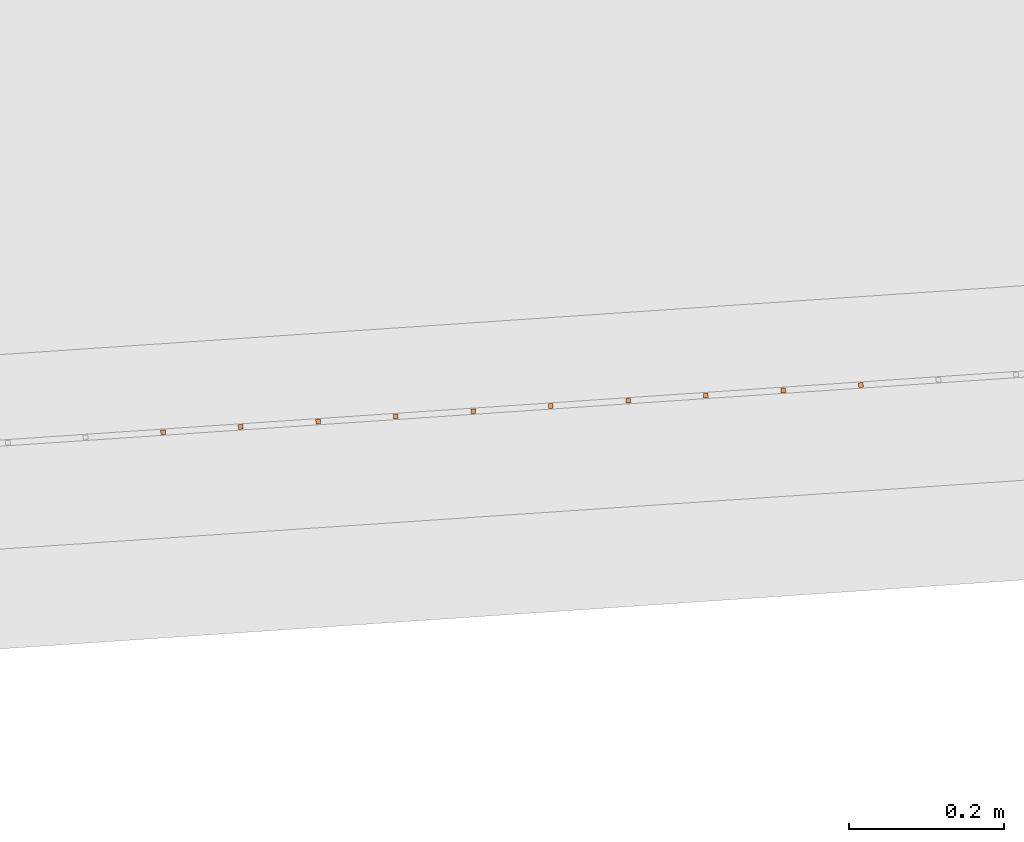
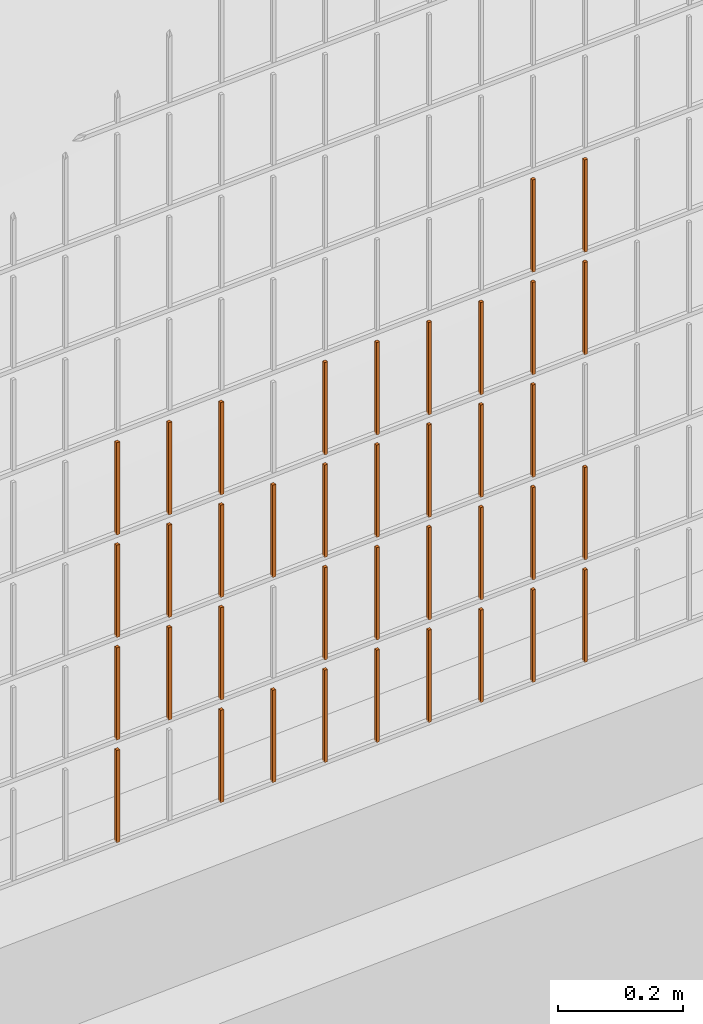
# One storey, part 148 of 1809: 38 proxies, 1 element without a shape of its own.
"""IFC2X3 building model written with IfcOpenShell, lengths in millimetres."""

from ifc_helpers import new_model, entity, si_unit, converted_unit, derived_unit, money_unit, direction, frame, origin_with_axes, place, context, subcontext, project, spatial, faceted_brep, source, transform, mapped, material, type_object, element, aggregate, save


model = new_model("IFC2X3")

# Units and contexts
model_context = context("Model", 3, precision=0.01, world=origin_with_axes(), true_north=direction((0.0, 1.0)))
body_context = subcontext(model_context, "Body", "Model", "MODEL_VIEW")
ifc_project = project(units=[si_unit("LENGTHUNIT", "METRE", prefix="MILLI"), si_unit("AREAUNIT", "SQUARE_METRE"), si_unit("VOLUMEUNIT", "CUBIC_METRE"), converted_unit("PLANEANGLEUNIT", "DEGREE", entity("IfcPlaneAngleMeasure", 0.0174532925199), si_unit("PLANEANGLEUNIT", "RADIAN"), dimensions=[0, 0, 0, 0, 0, 0, 0]), si_unit("SOLIDANGLEUNIT", "STERADIAN"), money_unit("EUR"), converted_unit("TIMEUNIT", "Year", entity("IfcTimeMeasure", 31556926.0), si_unit("TIMEUNIT", "SECOND"), dimensions=[0, 0, 1, 0, 0, 0, 0]), si_unit("MASSUNIT", "GRAM", prefix="KILO"), si_unit("THERMODYNAMICTEMPERATUREUNIT", "DEGREE_CELSIUS"), si_unit("LUMINOUSINTENSITYUNIT", "LUMEN"), si_unit("ENERGYUNIT", "JOULE", prefix="MEGA"), derived_unit("THERMALCONDUCTANCEUNIT", [(si_unit("POWERUNIT", "WATT"), 1), (si_unit("LENGTHUNIT", "METRE"), -1), (si_unit("THERMODYNAMICTEMPERATUREUNIT", "KELVIN"), -1)]), derived_unit("SPECIFICHEATCAPACITYUNIT", [(si_unit("ENERGYUNIT", "JOULE"), 1), (si_unit("MASSUNIT", "GRAM", prefix="KILO"), -1), (si_unit("THERMODYNAMICTEMPERATUREUNIT", "KELVIN"), -1)]), derived_unit("MASSDENSITYUNIT", [(si_unit("MASSUNIT", "GRAM", prefix="KILO"), 1), (si_unit("VOLUMEUNIT", "CUBIC_METRE"), -1)])], contexts=[model_context])

# Site, building, storey
site_placement = place(None, origin_with_axes())
site = spatial("IfcSite", under=ifc_project, at=site_placement, Name="Politse- ja Piirivalveameti ning Päästeameti ühishoone", CompositionType="ELEMENT")
building_placement = place(site_placement, origin_with_axes())
building = spatial("IfcBuilding", under=site, at=building_placement, Name="Politse- ja Piirivalveameti ning Päästeameti ühishoone", CompositionType="ELEMENT")
storey_placement = place(building_placement, origin_with_axes())
storey = spatial("IfcBuildingStorey", under=building, at=storey_placement, Name="Esimene korrus", CompositionType="ELEMENT", Elevation=0.0)

# Proxies
building_element_proxy_type_1 = type_object("IfcBuildingElementProxyType", Name="Railing Type", PredefinedType="NOTDEFINED")
proxy_1_placement = place(storey_placement, frame((89252.001212, -29183.4766571, 203.661247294), z_axis=(0.0, 0.0, 1.0), x_axis=(1.0, 0.0, 0.0)))
proxy_1 = element("IfcBuildingElementProxy", 1, at=proxy_1_placement, inside=storey, type_object=building_element_proxy_type_1, Name="PIIRDEAED")
ifc_material = material(Name="ET-03_Raud")
building_element_proxy_type_2 = type_object("IfcBuildingElementProxyType", Name="IfcBuildingElementProxy", PredefinedType="NOTDEFINED")
shared_shape_1 = source(origin_with_axes(), body_context, "Body", "Brep", [
    faceted_brep([(3.0, 3.0, -0.000752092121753), (-3.0, 3.0, -0.000752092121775), (-3.0, 3.0, 179.99926046), (3.0, 3.0, 179.99926046), (3.0, -3.0, 0.000752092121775), (-3.0, -3.0, 0.000752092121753), (-3.0, -3.0, 180.000764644), (3.0, -3.0, 180.000764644)], [[[0, 1, 2, 3]], [[0, 4, 5, 1]], [[1, 5, 6, 2]], [[3, 2, 6, 7]], [[4, 0, 3, 7]], [[5, 4, 7, 6]]]),
])
proxy_2_placement = place(proxy_1_placement, frame((-83636.1105287, -22947.0783965, 6.21925497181), z_axis=(0.0, 0.0, 1.0), x_axis=(1.0, 0.0, 0.0)))
proxy_2 = element("IfcBuildingElementProxy", 2, at=proxy_2_placement, type_object=building_element_proxy_type_2, material=ifc_material, Name="BALUSTER - 001", context=body_context, shape_type="MappedRepresentation", body=[
    mapped(shared_shape_1, transform((0.0, 0.0, 0.0), x_axis=(-0.0673926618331, 0.997726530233, 0.0), y_axis=(-0.997726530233, -0.0673926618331, 0.0), z_axis=(0.0, 0.0, 1.0))),
])
proxy_3_placement = place(proxy_1_placement, frame((-83636.1105287, -22947.0783965, 206.219254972), z_axis=(0.0, 0.0, 1.0), x_axis=(1.0, 0.0, 0.0)))
proxy_3 = element("IfcBuildingElementProxy", 3, at=proxy_3_placement, type_object=building_element_proxy_type_2, material=ifc_material, Name="BALUSTER - 001", context=body_context, shape_type="MappedRepresentation", body=[
    mapped(shared_shape_1, transform((0.0, 0.0, 0.0), x_axis=(-0.0673926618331, 0.997726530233, 0.0), y_axis=(-0.997726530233, -0.0673926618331, 0.0), z_axis=(0.0, 0.0, 1.0))),
])
shared_shape_2 = source(origin_with_axes(), body_context, "Body", "Brep", [
    faceted_brep([(3.0, 3.0, -0.000752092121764), (-3.0, 3.0, -0.000752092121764), (-3.0, 3.0, 179.99926046), (3.0, 3.0, 179.99926046), (3.0, -3.0, 0.000752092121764), (-3.0, -3.0, 0.000752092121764), (-3.0, -3.0, 180.000764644), (3.0, -3.0, 180.000764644)], [[[0, 1, 2, 3]], [[0, 4, 5, 1]], [[1, 5, 6, 2]], [[3, 2, 6, 7]], [[4, 0, 3, 7]], [[5, 4, 7, 6]]]),
])
proxy_4_placement = place(proxy_1_placement, frame((-83536.3378757, -22940.3391303, 6.24432470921), z_axis=(0.0, 0.0, 1.0), x_axis=(1.0, 0.0, 0.0)))
proxy_4 = element("IfcBuildingElementProxy", 4, at=proxy_4_placement, type_object=building_element_proxy_type_2, material=ifc_material, Name="BALUSTER - 001", context=body_context, shape_type="MappedRepresentation", body=[
    mapped(shared_shape_2, transform((0.0, 0.0, 0.0), x_axis=(-0.0673926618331, 0.997726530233, 0.0), y_axis=(-0.997726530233, -0.0673926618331, 0.0), z_axis=(0.0, 0.0, 1.0))),
])
proxy_5_placement = place(proxy_1_placement, frame((-84134.9737938, -22980.7747274, 6.09390628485), z_axis=(0.0, 0.0, 1.0), x_axis=(1.0, 0.0, 0.0)))
proxy_5 = element("IfcBuildingElementProxy", 5, at=proxy_5_placement, type_object=building_element_proxy_type_2, material=ifc_material, Name="BALUSTER - 001", context=body_context, shape_type="MappedRepresentation", body=[
    mapped(shared_shape_2, transform((0.0, 0.0, 0.0), x_axis=(-0.0673926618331, 0.997726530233, 0.0), y_axis=(-0.997726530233, -0.0673926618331, 0.0), z_axis=(0.0, 0.0, 1.0))),
])
shared_shape_3 = source(origin_with_axes(), body_context, "Body", "Brep", [
    faceted_brep([(3.0, 3.0, -0.000752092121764), (-3.0, 3.0, -0.000752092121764), (-3.0, 3.0, 179.99926046), (3.0, 3.0, 179.99926046), (3.0, -3.0, 0.000752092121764), (-3.0, -3.0, 0.000752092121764), (-3.0, -3.0, 180.000764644), (3.0, -3.0, 180.000764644)], [[[0, 1, 2, 3]], [[0, 4, 5, 1]], [[1, 5, 6, 2]], [[3, 2, 6, 7]], [[4, 0, 3, 7]], [[5, 4, 7, 6]]]),
])
proxy_6_placement = place(proxy_1_placement, frame((-83237.0199166, -22920.1213318, 6.31953392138), z_axis=(0.0, 0.0, 1.0), x_axis=(1.0, 0.0, 0.0)))
proxy_6 = element("IfcBuildingElementProxy", 6, at=proxy_6_placement, type_object=building_element_proxy_type_2, material=ifc_material, Name="BALUSTER - 001", context=body_context, shape_type="MappedRepresentation", body=[
    mapped(shared_shape_3, transform((0.0, 0.0, 0.0), x_axis=(-0.0673926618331, 0.997726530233, 0.0), y_axis=(-0.997726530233, -0.0673926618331, 0.0), z_axis=(0.0, 0.0, 1.0))),
])
shared_shape_4 = source(origin_with_axes(), body_context, "Body", "Brep", [
    faceted_brep([(3.0, 3.0, -0.000752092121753), (-3.0, 3.0, -0.000752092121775), (-3.0, 3.0, 179.99926046), (3.0, 3.0, 179.99926046), (3.0, -3.0, 0.000752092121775), (-3.0, -3.0, 0.000752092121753), (-3.0, -3.0, 180.000764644), (3.0, -3.0, 180.000764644)], [[[0, 1, 2, 3]], [[0, 4, 5, 1]], [[1, 5, 6, 2]], [[3, 2, 6, 7]], [[4, 0, 3, 7]], [[5, 4, 7, 6]]]),
])
proxy_7_placement = place(proxy_1_placement, frame((-83436.5652227, -22933.5998642, 6.2693944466), z_axis=(0.0, 0.0, 1.0), x_axis=(1.0, 0.0, 0.0)))
proxy_7 = element("IfcBuildingElementProxy", 7, at=proxy_7_placement, type_object=building_element_proxy_type_2, material=ifc_material, Name="BALUSTER - 001", context=body_context, shape_type="MappedRepresentation", body=[
    mapped(shared_shape_4, transform((0.0, 0.0, 0.0), x_axis=(-0.0673926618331, 0.997726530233, 0.0), y_axis=(-0.997726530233, -0.0673926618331, 0.0), z_axis=(0.0, 0.0, 1.0))),
])
shared_shape_5 = source(origin_with_axes(), body_context, "Body", "Brep", [
    faceted_brep([(3.0, 3.0, -0.000752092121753), (-3.0, 3.0, -0.000752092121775), (-3.0, 3.0, 179.99926046), (3.0, 3.0, 179.99926046), (3.0, -3.0, 0.000752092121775), (-3.0, -3.0, 0.000752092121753), (-3.0, -3.0, 180.000764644), (3.0, -3.0, 180.000764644)], [[[0, 1, 2, 3]], [[0, 4, 5, 1]], [[1, 5, 6, 2]], [[3, 2, 6, 7]], [[4, 0, 3, 7]], [[5, 4, 7, 6]]]),
])
proxy_8_placement = place(proxy_1_placement, frame((-83636.1105287, -22947.0783965, 406.219254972), z_axis=(0.0, 0.0, 1.0), x_axis=(1.0, 0.0, 0.0)))
proxy_8 = element("IfcBuildingElementProxy", 8, at=proxy_8_placement, type_object=building_element_proxy_type_2, material=ifc_material, Name="BALUSTER - 001", context=body_context, shape_type="MappedRepresentation", body=[
    mapped(shared_shape_5, transform((0.0, 0.0, 0.0), x_axis=(-0.0673926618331, 0.997726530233, 0.0), y_axis=(-0.997726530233, -0.0673926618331, 0.0), z_axis=(0.0, 0.0, 1.0))),
])
shared_shape_6 = source(origin_with_axes(), body_context, "Body", "Brep", [
    faceted_brep([(3.0, 3.0, -0.000752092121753), (-3.0, 3.0, -0.000752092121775), (-3.0, 3.0, 179.99926046), (3.0, 3.0, 179.99926046), (3.0, -3.0, 0.000752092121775), (-3.0, -3.0, 0.000752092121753), (-3.0, -3.0, 180.000764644), (3.0, -3.0, 180.000764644)], [[[0, 1, 2, 3]], [[0, 4, 5, 1]], [[1, 5, 6, 2]], [[3, 2, 6, 7]], [[4, 0, 3, 7]], [[5, 4, 7, 6]]]),
])
proxy_9_placement = place(proxy_1_placement, frame((-83735.8831817, -22953.8176627, 206.194185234), z_axis=(0.0, 0.0, 1.0), x_axis=(1.0, 0.0, 0.0)))
proxy_9 = element("IfcBuildingElementProxy", 9, at=proxy_9_placement, type_object=building_element_proxy_type_2, material=ifc_material, Name="BALUSTER - 001", context=body_context, shape_type="MappedRepresentation", body=[
    mapped(shared_shape_6, transform((0.0, 0.0, 0.0), x_axis=(-0.0673926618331, 0.997726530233, 0.0), y_axis=(-0.997726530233, -0.0673926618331, 0.0), z_axis=(0.0, 0.0, 1.0))),
])
shared_shape_7 = source(origin_with_axes(), body_context, "Body", "Brep", [
    faceted_brep([(3.0, 3.0, -0.000752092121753), (-3.0, 3.0, -0.000752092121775), (-3.0, 3.0, 179.99926046), (3.0, 3.0, 179.99926046), (3.0, -3.0, 0.000752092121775), (-3.0, -3.0, 0.000752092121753), (-3.0, -3.0, 180.000764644), (3.0, -3.0, 180.000764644)], [[[0, 1, 2, 3]], [[0, 4, 5, 1]], [[1, 5, 6, 2]], [[3, 2, 6, 7]], [[4, 0, 3, 7]], [[5, 4, 7, 6]]]),
])
proxy_10_placement = place(proxy_1_placement, frame((-83735.8831817, -22953.8176627, 406.194185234), z_axis=(0.0, 0.0, 1.0), x_axis=(1.0, 0.0, 0.0)))
proxy_10 = element("IfcBuildingElementProxy", 10, at=proxy_10_placement, type_object=building_element_proxy_type_2, material=ifc_material, Name="BALUSTER - 001", context=body_context, shape_type="MappedRepresentation", body=[
    mapped(shared_shape_7, transform((0.0, 0.0, 0.0), x_axis=(-0.0673926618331, 0.997726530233, 0.0), y_axis=(-0.997726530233, -0.0673926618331, 0.0), z_axis=(0.0, 0.0, 1.0))),
])
proxy_11_placement = place(proxy_1_placement, frame((-83735.8831817, -22953.8176627, 606.194185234), z_axis=(0.0, 0.0, 1.0), x_axis=(1.0, 0.0, 0.0)))
proxy_11 = element("IfcBuildingElementProxy", 11, at=proxy_11_placement, type_object=building_element_proxy_type_2, material=ifc_material, Name="BALUSTER - 001", context=body_context, shape_type="MappedRepresentation", body=[
    mapped(shared_shape_7, transform((0.0, 0.0, 0.0), x_axis=(-0.0673926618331, 0.997726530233, 0.0), y_axis=(-0.997726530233, -0.0673926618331, 0.0), z_axis=(0.0, 0.0, 1.0))),
])
shared_shape_8 = source(origin_with_axes(), body_context, "Body", "Brep", [
    faceted_brep([(3.0, 3.0, -0.000752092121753), (-3.0, 3.0, -0.000752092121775), (-3.0, 3.0, 179.99926046), (3.0, 3.0, 179.99926046), (3.0, -3.0, 0.000752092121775), (-3.0, -3.0, 0.000752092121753), (-3.0, -3.0, 180.000764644), (3.0, -3.0, 180.000764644)], [[[0, 1, 2, 3]], [[0, 4, 5, 1]], [[1, 5, 6, 2]], [[3, 2, 6, 7]], [[4, 0, 3, 7]], [[5, 4, 7, 6]]]),
])
proxy_12_placement = place(proxy_1_placement, frame((-83735.8831817, -22953.8176627, 6.19418523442), z_axis=(0.0, 0.0, 1.0), x_axis=(1.0, 0.0, 0.0)))
proxy_12 = element("IfcBuildingElementProxy", 12, at=proxy_12_placement, type_object=building_element_proxy_type_2, material=ifc_material, Name="BALUSTER - 001", context=body_context, shape_type="MappedRepresentation", body=[
    mapped(shared_shape_8, transform((0.0, 0.0, 0.0), x_axis=(-0.0673926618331, 0.997726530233, 0.0), y_axis=(-0.997726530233, -0.0673926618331, 0.0), z_axis=(0.0, 0.0, 1.0))),
])
proxy_13_placement = place(proxy_1_placement, frame((-83835.6558348, -22960.5569289, 6.16911549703), z_axis=(0.0, 0.0, 1.0), x_axis=(1.0, 0.0, 0.0)))
proxy_13 = element("IfcBuildingElementProxy", 13, at=proxy_13_placement, type_object=building_element_proxy_type_2, material=ifc_material, Name="BALUSTER - 001", context=body_context, shape_type="MappedRepresentation", body=[
    mapped(shared_shape_8, transform((0.0, 0.0, 0.0), x_axis=(-0.0673926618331, 0.997726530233, 0.0), y_axis=(-0.997726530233, -0.0673926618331, 0.0), z_axis=(0.0, 0.0, 1.0))),
])
shared_shape_9 = source(origin_with_axes(), body_context, "Body", "Brep", [
    faceted_brep([(3.0, 3.0, -0.000752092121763), (-3.0, 3.0, -0.000752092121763), (-3.0, 3.0, 179.99926046), (3.0, 3.0, 179.99926046), (3.0, -3.0, 0.000752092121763), (-3.0, -3.0, 0.000752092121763), (-3.0, -3.0, 180.000764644), (3.0, -3.0, 180.000764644)], [[[0, 1, 2, 3]], [[0, 4, 5, 1]], [[1, 5, 6, 2]], [[3, 2, 6, 7]], [[4, 0, 3, 7]], [[5, 4, 7, 6]]]),
])
proxy_14_placement = place(proxy_1_placement, frame((-83536.3378757, -22940.3391303, 406.244324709), z_axis=(0.0, 0.0, 1.0), x_axis=(1.0, 0.0, 0.0)))
proxy_14 = element("IfcBuildingElementProxy", 14, at=proxy_14_placement, type_object=building_element_proxy_type_2, material=ifc_material, Name="BALUSTER - 001", context=body_context, shape_type="MappedRepresentation", body=[
    mapped(shared_shape_9, transform((0.0, 0.0, 0.0), x_axis=(-0.0673926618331, 0.997726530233, 0.0), y_axis=(-0.997726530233, -0.0673926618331, 0.0), z_axis=(0.0, 0.0, 1.0))),
])
proxy_15_placement = place(proxy_1_placement, frame((-84134.9737938, -22980.7747274, 406.093906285), z_axis=(0.0, 0.0, 1.0), x_axis=(1.0, 0.0, 0.0)))
proxy_15 = element("IfcBuildingElementProxy", 15, at=proxy_15_placement, type_object=building_element_proxy_type_2, material=ifc_material, Name="BALUSTER - 001", context=body_context, shape_type="MappedRepresentation", body=[
    mapped(shared_shape_9, transform((0.0, 0.0, 0.0), x_axis=(-0.0673926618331, 0.997726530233, 0.0), y_axis=(-0.997726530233, -0.0673926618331, 0.0), z_axis=(0.0, 0.0, 1.0))),
])
proxy_16_placement = place(proxy_1_placement, frame((-83536.3378757, -22940.3391303, 606.244324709), z_axis=(0.0, 0.0, 1.0), x_axis=(1.0, 0.0, 0.0)))
proxy_16 = element("IfcBuildingElementProxy", 16, at=proxy_16_placement, type_object=building_element_proxy_type_2, material=ifc_material, Name="BALUSTER - 001", context=body_context, shape_type="MappedRepresentation", body=[
    mapped(shared_shape_9, transform((0.0, 0.0, 0.0), x_axis=(-0.0673926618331, 0.997726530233, 0.0), y_axis=(-0.997726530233, -0.0673926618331, 0.0), z_axis=(0.0, 0.0, 1.0))),
])
proxy_17_placement = place(proxy_1_placement, frame((-84134.9737938, -22980.7747274, 606.093906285), z_axis=(0.0, 0.0, 1.0), x_axis=(1.0, 0.0, 0.0)))
proxy_17 = element("IfcBuildingElementProxy", 17, at=proxy_17_placement, type_object=building_element_proxy_type_2, material=ifc_material, Name="BALUSTER - 001", context=body_context, shape_type="MappedRepresentation", body=[
    mapped(shared_shape_9, transform((0.0, 0.0, 0.0), x_axis=(-0.0673926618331, 0.997726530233, 0.0), y_axis=(-0.997726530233, -0.0673926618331, 0.0), z_axis=(0.0, 0.0, 1.0))),
])
shared_shape_10 = source(origin_with_axes(), body_context, "Body", "Brep", [
    faceted_brep([(3.0, 3.0, -0.000752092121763), (-3.0, 3.0, -0.000752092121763), (-3.0, 3.0, 179.99926046), (3.0, 3.0, 179.99926046), (3.0, -3.0, 0.000752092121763), (-3.0, -3.0, 0.000752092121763), (-3.0, -3.0, 180.000764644), (3.0, -3.0, 180.000764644)], [[[0, 1, 2, 3]], [[0, 4, 5, 1]], [[1, 5, 6, 2]], [[3, 2, 6, 7]], [[4, 0, 3, 7]], [[5, 4, 7, 6]]]),
])
proxy_18_placement = place(proxy_1_placement, frame((-83237.0199166, -22920.1213318, 606.319533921), z_axis=(0.0, 0.0, 1.0), x_axis=(1.0, 0.0, 0.0)))
proxy_18 = element("IfcBuildingElementProxy", 18, at=proxy_18_placement, type_object=building_element_proxy_type_2, material=ifc_material, Name="BALUSTER - 001", context=body_context, shape_type="MappedRepresentation", body=[
    mapped(shared_shape_10, transform((0.0, 0.0, 0.0), x_axis=(-0.0673926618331, 0.997726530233, 0.0), y_axis=(-0.997726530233, -0.0673926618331, 0.0), z_axis=(0.0, 0.0, 1.0))),
])
shared_shape_11 = source(origin_with_axes(), body_context, "Body", "Brep", [
    faceted_brep([(3.0, 3.0, -0.000752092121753), (-3.0, 3.0, -0.000752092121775), (-3.0, 3.0, 179.99926046), (3.0, 3.0, 179.99926046), (3.0, -3.0, 0.000752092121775), (-3.0, -3.0, 0.000752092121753), (-3.0, -3.0, 180.000764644), (3.0, -3.0, 180.000764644)], [[[0, 1, 2, 3]], [[0, 4, 5, 1]], [[1, 5, 6, 2]], [[3, 2, 6, 7]], [[4, 0, 3, 7]], [[5, 4, 7, 6]]]),
])
proxy_19_placement = place(proxy_1_placement, frame((-83636.1105287, -22947.0783965, 606.219254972), z_axis=(0.0, 0.0, 1.0), x_axis=(1.0, 0.0, 0.0)))
proxy_19 = element("IfcBuildingElementProxy", 19, at=proxy_19_placement, type_object=building_element_proxy_type_2, material=ifc_material, Name="BALUSTER - 001", context=body_context, shape_type="MappedRepresentation", body=[
    mapped(shared_shape_11, transform((0.0, 0.0, 0.0), x_axis=(-0.0673926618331, 0.997726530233, 0.0), y_axis=(-0.997726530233, -0.0673926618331, 0.0), z_axis=(0.0, 0.0, 1.0))),
])
shared_shape_12 = source(origin_with_axes(), body_context, "Body", "Brep", [
    faceted_brep([(3.0, 3.0, -0.000752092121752), (-3.0, 3.0, -0.000752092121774), (-3.0, 3.0, 179.99926046), (3.0, 3.0, 179.99926046), (3.0, -3.0, 0.000752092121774), (-3.0, -3.0, 0.000752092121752), (-3.0, -3.0, 180.000764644), (3.0, -3.0, 180.000764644)], [[[0, 1, 2, 3]], [[0, 4, 5, 1]], [[1, 5, 6, 2]], [[3, 2, 6, 7]], [[4, 0, 3, 7]], [[5, 4, 7, 6]]]),
])
proxy_20_placement = place(proxy_1_placement, frame((-83336.7925696, -22926.860598, 806.294464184), z_axis=(0.0, 0.0, 1.0), x_axis=(1.0, 0.0, 0.0)))
proxy_20 = element("IfcBuildingElementProxy", 20, at=proxy_20_placement, type_object=building_element_proxy_type_2, material=ifc_material, Name="BALUSTER - 001", context=body_context, shape_type="MappedRepresentation", body=[
    mapped(shared_shape_12, transform((0.0, 0.0, 0.0), x_axis=(-0.0673926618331, 0.997726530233, 0.0), y_axis=(-0.997726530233, -0.0673926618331, 0.0), z_axis=(0.0, 0.0, 1.0))),
])
shared_shape_13 = source(origin_with_axes(), body_context, "Body", "Brep", [
    faceted_brep([(3.0, 3.0, -0.000752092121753), (-3.0, 3.0, -0.000752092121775), (-3.0, 3.0, 179.99926046), (3.0, 3.0, 179.99926046), (3.0, -3.0, 0.000752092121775), (-3.0, -3.0, 0.000752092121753), (-3.0, -3.0, 180.000764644), (3.0, -3.0, 180.000764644)], [[[0, 1, 2, 3]], [[0, 4, 5, 1]], [[1, 5, 6, 2]], [[3, 2, 6, 7]], [[4, 0, 3, 7]], [[5, 4, 7, 6]]]),
])
proxy_21_placement = place(proxy_1_placement, frame((-83336.7925696, -22926.860598, 6.29446418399), z_axis=(0.0, 0.0, 1.0), x_axis=(1.0, 0.0, 0.0)))
proxy_21 = element("IfcBuildingElementProxy", 21, at=proxy_21_placement, type_object=building_element_proxy_type_2, material=ifc_material, Name="BALUSTER - 001", context=body_context, shape_type="MappedRepresentation", body=[
    mapped(shared_shape_13, transform((0.0, 0.0, 0.0), x_axis=(-0.0673926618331, 0.997726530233, 0.0), y_axis=(-0.997726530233, -0.0673926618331, 0.0), z_axis=(0.0, 0.0, 1.0))),
])
shared_shape_14 = source(origin_with_axes(), body_context, "Body", "Brep", [
    faceted_brep([(3.0, 3.0, -0.000752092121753), (-3.0, 3.0, -0.000752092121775), (-3.0, 3.0, 179.99926046), (3.0, 3.0, 179.99926046), (3.0, -3.0, 0.000752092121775), (-3.0, -3.0, 0.000752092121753), (-3.0, -3.0, 180.000764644), (3.0, -3.0, 180.000764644)], [[[0, 1, 2, 3]], [[0, 4, 5, 1]], [[1, 5, 6, 2]], [[3, 2, 6, 7]], [[4, 0, 3, 7]], [[5, 4, 7, 6]]]),
])
proxy_22_placement = place(proxy_1_placement, frame((-83935.4284878, -22967.2961951, 6.14404575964), z_axis=(0.0, 0.0, 1.0), x_axis=(1.0, 0.0, 0.0)))
proxy_22 = element("IfcBuildingElementProxy", 22, at=proxy_22_placement, type_object=building_element_proxy_type_2, material=ifc_material, Name="BALUSTER - 001", context=body_context, shape_type="MappedRepresentation", body=[
    mapped(shared_shape_14, transform((0.0, 0.0, 0.0), x_axis=(-0.0673926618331, 0.997726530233, 0.0), y_axis=(-0.997726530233, -0.0673926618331, 0.0), z_axis=(0.0, 0.0, 1.0))),
])
shared_shape_15 = source(origin_with_axes(), body_context, "Body", "Brep", [
    faceted_brep([(3.0, 3.0, -0.000752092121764), (-3.0, 3.0, -0.000752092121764), (-3.0, 3.0, 179.99926046), (3.0, 3.0, 179.99926046), (3.0, -3.0, 0.000752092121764), (-3.0, -3.0, 0.000752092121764), (-3.0, -3.0, 180.000764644), (3.0, -3.0, 180.000764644)], [[[0, 1, 2, 3]], [[0, 4, 5, 1]], [[1, 5, 6, 2]], [[3, 2, 6, 7]], [[4, 0, 3, 7]], [[5, 4, 7, 6]]]),
])
proxy_23_placement = place(proxy_1_placement, frame((-83237.0199166, -22920.1213318, 206.319533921), z_axis=(0.0, 0.0, 1.0), x_axis=(1.0, 0.0, 0.0)))
proxy_23 = element("IfcBuildingElementProxy", 23, at=proxy_23_placement, type_object=building_element_proxy_type_2, material=ifc_material, Name="BALUSTER - 001", context=body_context, shape_type="MappedRepresentation", body=[
    mapped(shared_shape_15, transform((0.0, 0.0, 0.0), x_axis=(-0.0673926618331, 0.997726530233, 0.0), y_axis=(-0.997726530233, -0.0673926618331, 0.0), z_axis=(0.0, 0.0, 1.0))),
])
shared_shape_16 = source(origin_with_axes(), body_context, "Body", "Brep", [
    faceted_brep([(3.0, 3.0, -0.000752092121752), (-3.0, 3.0, -0.000752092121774), (-3.0, 3.0, 179.99926046), (3.0, 3.0, 179.99926046), (3.0, -3.0, 0.000752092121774), (-3.0, -3.0, 0.000752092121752), (-3.0, -3.0, 180.000764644), (3.0, -3.0, 180.000764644)], [[[0, 1, 2, 3]], [[0, 4, 5, 1]], [[1, 5, 6, 2]], [[3, 2, 6, 7]], [[4, 0, 3, 7]], [[5, 4, 7, 6]]]),
])
proxy_24_placement = place(proxy_1_placement, frame((-83935.4284878, -22967.2961951, 406.14404576), z_axis=(0.0, 0.0, 1.0), x_axis=(1.0, 0.0, 0.0)))
proxy_24 = element("IfcBuildingElementProxy", 24, at=proxy_24_placement, type_object=building_element_proxy_type_2, material=ifc_material, Name="BALUSTER - 001", context=body_context, shape_type="MappedRepresentation", body=[
    mapped(shared_shape_16, transform((0.0, 0.0, 0.0), x_axis=(-0.0673926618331, 0.997726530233, 0.0), y_axis=(-0.997726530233, -0.0673926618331, 0.0), z_axis=(0.0, 0.0, 1.0))),
])
proxy_25_placement = place(proxy_1_placement, frame((-83336.7925696, -22926.860598, 606.294464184), z_axis=(0.0, 0.0, 1.0), x_axis=(1.0, 0.0, 0.0)))
proxy_25 = element("IfcBuildingElementProxy", 25, at=proxy_25_placement, type_object=building_element_proxy_type_2, material=ifc_material, Name="BALUSTER - 001", context=body_context, shape_type="MappedRepresentation", body=[
    mapped(shared_shape_16, transform((0.0, 0.0, 0.0), x_axis=(-0.0673926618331, 0.997726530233, 0.0), y_axis=(-0.997726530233, -0.0673926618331, 0.0), z_axis=(0.0, 0.0, 1.0))),
])
proxy_26_placement = place(proxy_1_placement, frame((-84035.2011408, -22974.0354613, 606.118976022), z_axis=(0.0, 0.0, 1.0), x_axis=(1.0, 0.0, 0.0)))
proxy_26 = element("IfcBuildingElementProxy", 26, at=proxy_26_placement, type_object=building_element_proxy_type_2, material=ifc_material, Name="BALUSTER - 001", context=body_context, shape_type="MappedRepresentation", body=[
    mapped(shared_shape_16, transform((0.0, 0.0, 0.0), x_axis=(-0.0673926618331, 0.997726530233, 0.0), y_axis=(-0.997726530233, -0.0673926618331, 0.0), z_axis=(0.0, 0.0, 1.0))),
])
shared_shape_17 = source(origin_with_axes(), body_context, "Body", "Brep", [
    faceted_brep([(3.0, 3.0, -0.000752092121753), (-3.0, 3.0, -0.000752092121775), (-3.0, 3.0, 179.99926046), (3.0, 3.0, 179.99926046), (3.0, -3.0, 0.000752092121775), (-3.0, -3.0, 0.000752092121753), (-3.0, -3.0, 180.000764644), (3.0, -3.0, 180.000764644)], [[[0, 1, 2, 3]], [[0, 4, 5, 1]], [[1, 5, 6, 2]], [[3, 2, 6, 7]], [[4, 0, 3, 7]], [[5, 4, 7, 6]]]),
])
proxy_27_placement = place(proxy_1_placement, frame((-83436.5652227, -22933.5998642, 206.269394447), z_axis=(0.0, 0.0, 1.0), x_axis=(1.0, 0.0, 0.0)))
proxy_27 = element("IfcBuildingElementProxy", 27, at=proxy_27_placement, type_object=building_element_proxy_type_2, material=ifc_material, Name="BALUSTER - 001", context=body_context, shape_type="MappedRepresentation", body=[
    mapped(shared_shape_17, transform((0.0, 0.0, 0.0), x_axis=(-0.0673926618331, 0.997726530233, 0.0), y_axis=(-0.997726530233, -0.0673926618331, 0.0), z_axis=(0.0, 0.0, 1.0))),
])
shared_shape_18 = source(origin_with_axes(), body_context, "Body", "Brep", [
    faceted_brep([(3.0, 3.0, -0.000752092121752), (-3.0, 3.0, -0.000752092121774), (-3.0, 3.0, 179.99926046), (3.0, 3.0, 179.99926046), (3.0, -3.0, 0.000752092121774), (-3.0, -3.0, 0.000752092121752), (-3.0, -3.0, 180.000764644), (3.0, -3.0, 180.000764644)], [[[0, 1, 2, 3]], [[0, 4, 5, 1]], [[1, 5, 6, 2]], [[3, 2, 6, 7]], [[4, 0, 3, 7]], [[5, 4, 7, 6]]]),
])
proxy_28_placement = place(proxy_1_placement, frame((-83336.7925696, -22926.860598, 206.294464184), z_axis=(0.0, 0.0, 1.0), x_axis=(1.0, 0.0, 0.0)))
proxy_28 = element("IfcBuildingElementProxy", 28, at=proxy_28_placement, type_object=building_element_proxy_type_2, material=ifc_material, Name="BALUSTER - 001", context=body_context, shape_type="MappedRepresentation", body=[
    mapped(shared_shape_18, transform((0.0, 0.0, 0.0), x_axis=(-0.0673926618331, 0.997726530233, 0.0), y_axis=(-0.997726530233, -0.0673926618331, 0.0), z_axis=(0.0, 0.0, 1.0))),
])
proxy_29_placement = place(proxy_1_placement, frame((-83935.4284878, -22967.2961951, 206.14404576), z_axis=(0.0, 0.0, 1.0), x_axis=(1.0, 0.0, 0.0)))
proxy_29 = element("IfcBuildingElementProxy", 29, at=proxy_29_placement, type_object=building_element_proxy_type_2, material=ifc_material, Name="BALUSTER - 001", context=body_context, shape_type="MappedRepresentation", body=[
    mapped(shared_shape_18, transform((0.0, 0.0, 0.0), x_axis=(-0.0673926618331, 0.997726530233, 0.0), y_axis=(-0.997726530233, -0.0673926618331, 0.0), z_axis=(0.0, 0.0, 1.0))),
])
proxy_30_placement = place(proxy_1_placement, frame((-84035.2011408, -22974.0354613, 206.118976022), z_axis=(0.0, 0.0, 1.0), x_axis=(1.0, 0.0, 0.0)))
proxy_30 = element("IfcBuildingElementProxy", 30, at=proxy_30_placement, type_object=building_element_proxy_type_2, material=ifc_material, Name="BALUSTER - 001", context=body_context, shape_type="MappedRepresentation", body=[
    mapped(shared_shape_18, transform((0.0, 0.0, 0.0), x_axis=(-0.0673926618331, 0.997726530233, 0.0), y_axis=(-0.997726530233, -0.0673926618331, 0.0), z_axis=(0.0, 0.0, 1.0))),
])
proxy_31_placement = place(proxy_1_placement, frame((-83336.7925696, -22926.860598, 406.294464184), z_axis=(0.0, 0.0, 1.0), x_axis=(1.0, 0.0, 0.0)))
proxy_31 = element("IfcBuildingElementProxy", 31, at=proxy_31_placement, type_object=building_element_proxy_type_2, material=ifc_material, Name="BALUSTER - 001", context=body_context, shape_type="MappedRepresentation", body=[
    mapped(shared_shape_18, transform((0.0, 0.0, 0.0), x_axis=(-0.0673926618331, 0.997726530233, 0.0), y_axis=(-0.997726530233, -0.0673926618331, 0.0), z_axis=(0.0, 0.0, 1.0))),
])
proxy_32_placement = place(proxy_1_placement, frame((-83436.5652227, -22933.5998642, 406.269394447), z_axis=(0.0, 0.0, 1.0), x_axis=(1.0, 0.0, 0.0)))
proxy_32 = element("IfcBuildingElementProxy", 32, at=proxy_32_placement, type_object=building_element_proxy_type_2, material=ifc_material, Name="BALUSTER - 001", context=body_context, shape_type="MappedRepresentation", body=[
    mapped(shared_shape_18, transform((0.0, 0.0, 0.0), x_axis=(-0.0673926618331, 0.997726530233, 0.0), y_axis=(-0.997726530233, -0.0673926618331, 0.0), z_axis=(0.0, 0.0, 1.0))),
])
proxy_33_placement = place(proxy_1_placement, frame((-84035.2011408, -22974.0354613, 406.118976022), z_axis=(0.0, 0.0, 1.0), x_axis=(1.0, 0.0, 0.0)))
proxy_33 = element("IfcBuildingElementProxy", 33, at=proxy_33_placement, type_object=building_element_proxy_type_2, material=ifc_material, Name="BALUSTER - 001", context=body_context, shape_type="MappedRepresentation", body=[
    mapped(shared_shape_18, transform((0.0, 0.0, 0.0), x_axis=(-0.0673926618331, 0.997726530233, 0.0), y_axis=(-0.997726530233, -0.0673926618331, 0.0), z_axis=(0.0, 0.0, 1.0))),
])
proxy_34_placement = place(proxy_1_placement, frame((-83436.5652227, -22933.5998642, 606.269394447), z_axis=(0.0, 0.0, 1.0), x_axis=(1.0, 0.0, 0.0)))
proxy_34 = element("IfcBuildingElementProxy", 34, at=proxy_34_placement, type_object=building_element_proxy_type_2, material=ifc_material, Name="BALUSTER - 001", context=body_context, shape_type="MappedRepresentation", body=[
    mapped(shared_shape_18, transform((0.0, 0.0, 0.0), x_axis=(-0.0673926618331, 0.997726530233, 0.0), y_axis=(-0.997726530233, -0.0673926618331, 0.0), z_axis=(0.0, 0.0, 1.0))),
])
proxy_35_placement = place(proxy_1_placement, frame((-83935.4284878, -22967.2961951, 606.14404576), z_axis=(0.0, 0.0, 1.0), x_axis=(1.0, 0.0, 0.0)))
proxy_35 = element("IfcBuildingElementProxy", 35, at=proxy_35_placement, type_object=building_element_proxy_type_2, material=ifc_material, Name="BALUSTER - 001", context=body_context, shape_type="MappedRepresentation", body=[
    mapped(shared_shape_18, transform((0.0, 0.0, 0.0), x_axis=(-0.0673926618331, 0.997726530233, 0.0), y_axis=(-0.997726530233, -0.0673926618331, 0.0), z_axis=(0.0, 0.0, 1.0))),
])
shared_shape_19 = source(origin_with_axes(), body_context, "Body", "Brep", [
    faceted_brep([(3.0, 3.0, -0.000752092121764), (-3.0, 3.0, -0.000752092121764), (-3.0, 3.0, 179.99926046), (3.0, 3.0, 179.99926046), (3.0, -3.0, 0.000752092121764), (-3.0, -3.0, 0.000752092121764), (-3.0, -3.0, 180.000764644), (3.0, -3.0, 180.000764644)], [[[0, 1, 2, 3]], [[0, 4, 5, 1]], [[1, 5, 6, 2]], [[3, 2, 6, 7]], [[4, 0, 3, 7]], [[5, 4, 7, 6]]]),
])
proxy_36_placement = place(proxy_1_placement, frame((-83536.3378757, -22940.3391303, 206.244324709), z_axis=(0.0, 0.0, 1.0), x_axis=(1.0, 0.0, 0.0)))
proxy_36 = element("IfcBuildingElementProxy", 36, at=proxy_36_placement, type_object=building_element_proxy_type_2, material=ifc_material, Name="BALUSTER - 001", context=body_context, shape_type="MappedRepresentation", body=[
    mapped(shared_shape_19, transform((0.0, 0.0, 0.0), x_axis=(-0.0673926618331, 0.997726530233, 0.0), y_axis=(-0.997726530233, -0.0673926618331, 0.0), z_axis=(0.0, 0.0, 1.0))),
])
proxy_37_placement = place(proxy_1_placement, frame((-84134.9737938, -22980.7747274, 206.093906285), z_axis=(0.0, 0.0, 1.0), x_axis=(1.0, 0.0, 0.0)))
proxy_37 = element("IfcBuildingElementProxy", 37, at=proxy_37_placement, type_object=building_element_proxy_type_2, material=ifc_material, Name="BALUSTER - 001", context=body_context, shape_type="MappedRepresentation", body=[
    mapped(shared_shape_19, transform((0.0, 0.0, 0.0), x_axis=(-0.0673926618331, 0.997726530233, 0.0), y_axis=(-0.997726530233, -0.0673926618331, 0.0), z_axis=(0.0, 0.0, 1.0))),
])
shared_shape_20 = source(origin_with_axes(), body_context, "Body", "Brep", [
    faceted_brep([(3.0, 3.0, -0.000752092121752), (-3.0, 3.0, -0.000752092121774), (-3.0, 3.0, 179.99926046), (3.0, 3.0, 179.99926046), (3.0, -3.0, 0.000752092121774), (-3.0, -3.0, 0.000752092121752), (-3.0, -3.0, 180.000764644), (3.0, -3.0, 180.000764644)], [[[0, 1, 2, 3]], [[0, 4, 5, 1]], [[1, 5, 6, 2]], [[3, 2, 6, 7]], [[4, 0, 3, 7]], [[5, 4, 7, 6]]]),
])
proxy_38_placement = place(proxy_1_placement, frame((-83835.6558348, -22960.5569289, 406.169115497), z_axis=(0.0, 0.0, 1.0), x_axis=(1.0, 0.0, 0.0)))
proxy_38 = element("IfcBuildingElementProxy", 38, at=proxy_38_placement, type_object=building_element_proxy_type_2, material=ifc_material, Name="BALUSTER - 001", context=body_context, shape_type="MappedRepresentation", body=[
    mapped(shared_shape_20, transform((0.0, 0.0, 0.0), x_axis=(-0.0673926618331, 0.997726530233, 0.0), y_axis=(-0.997726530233, -0.0673926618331, 0.0), z_axis=(0.0, 0.0, 1.0))),
])
shared_shape_21 = source(origin_with_axes(), body_context, "Body", "Brep", [
    faceted_brep([(3.0, 3.0, -0.000752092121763), (-3.0, 3.0, -0.000752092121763), (-3.0, 3.0, 179.99926046), (3.0, 3.0, 179.99926046), (3.0, -3.0, 0.000752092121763), (-3.0, -3.0, 0.000752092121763), (-3.0, -3.0, 180.000764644), (3.0, -3.0, 180.000764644)], [[[0, 1, 2, 3]], [[0, 4, 5, 1]], [[1, 5, 6, 2]], [[3, 2, 6, 7]], [[4, 0, 3, 7]], [[5, 4, 7, 6]]]),
])
proxy_39_placement = place(proxy_1_placement, frame((-83237.0199166, -22920.1213318, 806.319533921), z_axis=(0.0, 0.0, 1.0), x_axis=(1.0, 0.0, 0.0)))
proxy_39 = element("IfcBuildingElementProxy", 39, at=proxy_39_placement, type_object=building_element_proxy_type_2, material=ifc_material, Name="BALUSTER - 001", context=body_context, shape_type="MappedRepresentation", body=[
    mapped(shared_shape_21, transform((0.0, 0.0, 0.0), x_axis=(-0.0673926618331, 0.997726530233, 0.0), y_axis=(-0.997726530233, -0.0673926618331, 0.0), z_axis=(0.0, 0.0, 1.0))),
])
aggregate(proxy_1, [proxy_6, proxy_21, proxy_7, proxy_4, proxy_2, proxy_12, proxy_13, proxy_22, proxy_5, proxy_23, proxy_28, proxy_27, proxy_36, proxy_3, proxy_9, proxy_29, proxy_30, proxy_37, proxy_31, proxy_32, proxy_14, proxy_8, proxy_10, proxy_38, proxy_24, proxy_33, proxy_15, proxy_18, proxy_25, proxy_34, proxy_16, proxy_19, proxy_11, proxy_35, proxy_26, proxy_17, proxy_39, proxy_20])

save(model, "model.ifc")
